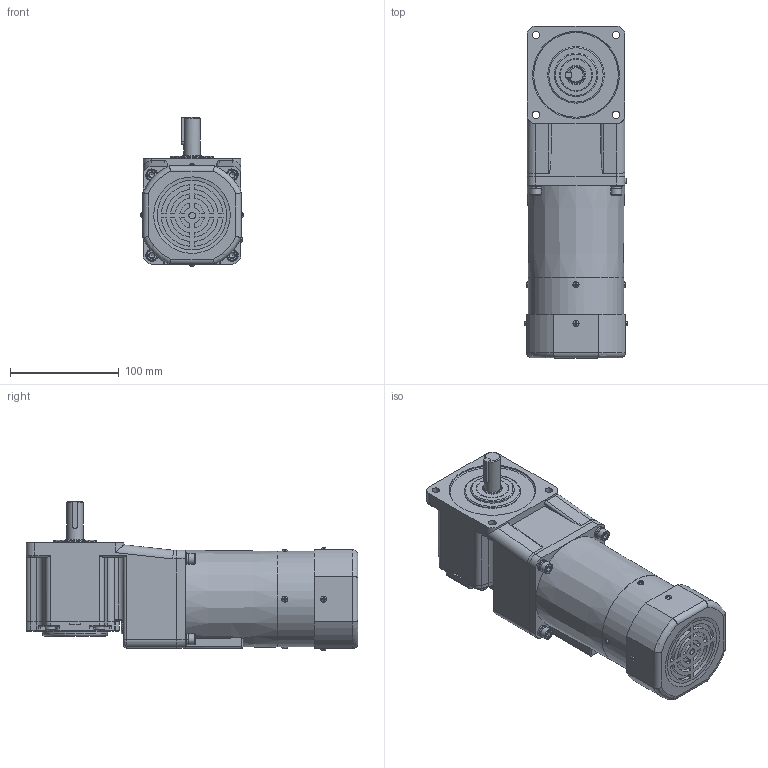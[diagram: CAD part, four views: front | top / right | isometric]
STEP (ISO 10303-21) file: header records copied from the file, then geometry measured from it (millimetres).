
FILE_DESCRIPTION(/* description */ (''),/* implementation_level */ '2;1');
FILE_NAME(/* name */ '90+中实直角-刹车风叶-60W.stp',/* time_stamp */ '2022-11-01T13:28:13+08:00',/* author */ (''),/* organization */ (''),/* preprocessor_version */ 'ST-DEVELOPER v16.7',/* originating_system */ 'SIEMENS PLM Software NX 1899',/* authorisation */ '');
FILE_SCHEMA (('AP203_CONFIGURATION_CONTROLLED_3D_DESIGN_OF_MECHANICAL_PARTS_AND_ASSEMBLIES_MIM_LF { 1 0 10303 403 2 1 2}'));
Length unit declared in the file: millimetre
Products named in the file (1): yf1854BC0762njxo
Bounding box: 94.84 x 305.5 x 137.42 mm (x, y, z)
Volume: 2082930.7 mm3; surface area: 163444 mm2
Topology: 15 solids, 15 shells, 766 faces, 1818 edges, 1122 vertices
Faces by surface type: plane 424, cylinder 218, torus 59, cone 45, bspline 12, sphere 8
Full cylindrical faces by diameter (mm): 5 x4, 5.5 x4, 5.795 x4, 6 x1, 6.4 x4, 7 x8, 9.5 x4, 10 x4, 11 x4, 15 x1, 18 x1, 30 x1, 40 x1, 52 x1, 60 x1, 67 x1, 76 x1, 80 x1, 86 x2, 87.914 x1
Entity records: 24405 total; most frequent: CARTESIAN_POINT 6229, DIRECTION 3483, ORIENTED_EDGE 3334, EDGE_CURVE 1667, AXIS2_PLACEMENT_3D 1305, VERTEX_POINT 1082, EDGE_LOOP 933, LINE 873
